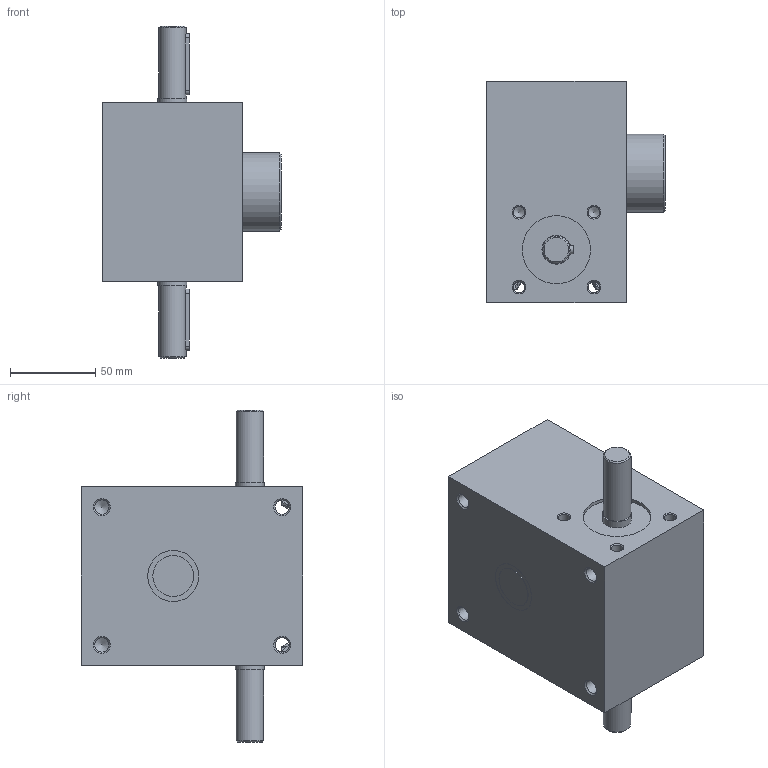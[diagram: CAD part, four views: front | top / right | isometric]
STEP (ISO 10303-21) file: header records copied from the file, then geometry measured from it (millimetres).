
FILE_DESCRIPTION(/* description */ (''),/* implementation_level */ '2;1');
FILE_NAME(/* name */ 'D:\FOLDER Tomasz Michałek\pliki z pulpitu\Katalogi przekładni\Podnośniki śrubowe\Pivexin Technology\Podnosniki - potrzebne\Modele podnosnikow\R\SG25\M3-R-241\SG25-R-L.stp',/* time_stamp */ '2016-06-07T22:35:47+02:00',/* author */ ('Tomasz'),/* organization */ (''),/* preprocessor_version */ 'ST-DEVELOPER v16.1',/* originating_system */ 'Autodesk Inventor 2016',/* authorisation */ '');
FILE_SCHEMA (('AUTOMOTIVE_DESIGN { 1 0 10303 214 3 1 1 }'));
Length unit declared in the file: millimetre
Products named in the file (3): SG25-R_obudowa; slimacznica_SG25; SG25-R-H
Assembly tree (2 placements, depth 2):
  SG25-R-H
    SG25-R_obudowa
    slimacznica_SG25
Bounding box: 105 x 130 x 195 mm (x, y, z)
Volume: 1084297.7 mm3; surface area: 100418.5 mm2
Topology: 2 solids, 2 shells, 87 faces, 204 edges, 129 vertices
Faces by surface type: cone 35, cylinder 30, plane 22
Full cylindrical faces by diameter (mm): 6.647 x8, 8.376 x8, 16 x2, 17 x2, 24 x1, 30 x2, 40 x2, 46 x1
Entity records: 2277 total; most frequent: CARTESIAN_POINT 574, DIRECTION 362, ORIENTED_EDGE 246, AXIS2_PLACEMENT_3D 167, EDGE_LOOP 160, EDGE_CURVE 123, VERTEX_POINT 103, FACE_OUTER_BOUND 87
